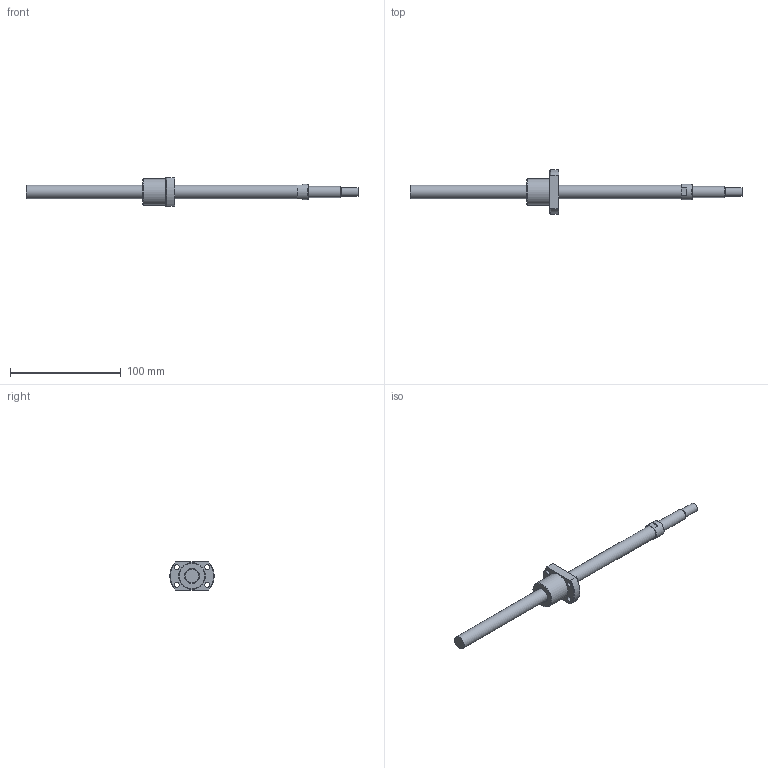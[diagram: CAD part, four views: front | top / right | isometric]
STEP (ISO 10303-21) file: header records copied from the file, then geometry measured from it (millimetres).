
FILE_DESCRIPTION(/* description */ ('STEP AP214'),/* implementation_level */ '2;1');
FILE_NAME(/* name */ 'NSGF1204Z-240R300C3-0-T-S-T-A-(105.5-S)',/* time_stamp */ '2026-08-24T20:18:37+02:00',/* author */ ('License CC BY-ND 4.0'),/* organization */ ('CADENAS'),/* preprocessor_version */ 'ST-DEVELOPER v20',/* originating_system */ 'PARTsolutions',/* authorisation */ ' ');
FILE_SCHEMA (('AUTOMOTIVE_DESIGN {1 0 10303 214 3 1 1}'));
Length unit declared in the file: millimetre
Products named in the file (3): NSGF1204Z-240R300C3-0-T-S-T-A-(105.5-S); NSG1204Z-240R30029_(T-S_T-A_2)-2; NSGF1204Z-1
Assembly tree (2 placements, depth 2):
  NSGF1204Z-240R300C3-0-T-S-T-A-(105.5-S)
    NSG1204Z-240R30029_(T-S_T-A_2)-2
    NSGF1204Z-1
Bounding box: 300 x 39.88 x 26 mm (x, y, z)
Volume: 43792.9 mm3; surface area: 17061.7 mm2
Topology: 2 solids, 2 shells, 38 faces, 85 edges, 55 vertices
Faces by surface type: plane 16, cylinder 13, cone 8, torus 1
Full cylindrical faces by diameter (mm): 4.5 x4, 8 x1, 10 x1, 12 x2, 14 x1, 21 x1, 24 x1
Entity records: 1055 total; most frequent: CARTESIAN_POINT 181, DIRECTION 178, ORIENTED_EDGE 130, AXIS2_PLACEMENT_3D 80, EDGE_LOOP 68, FACE_BOUND 68, EDGE_CURVE 65, VERTEX_POINT 51
